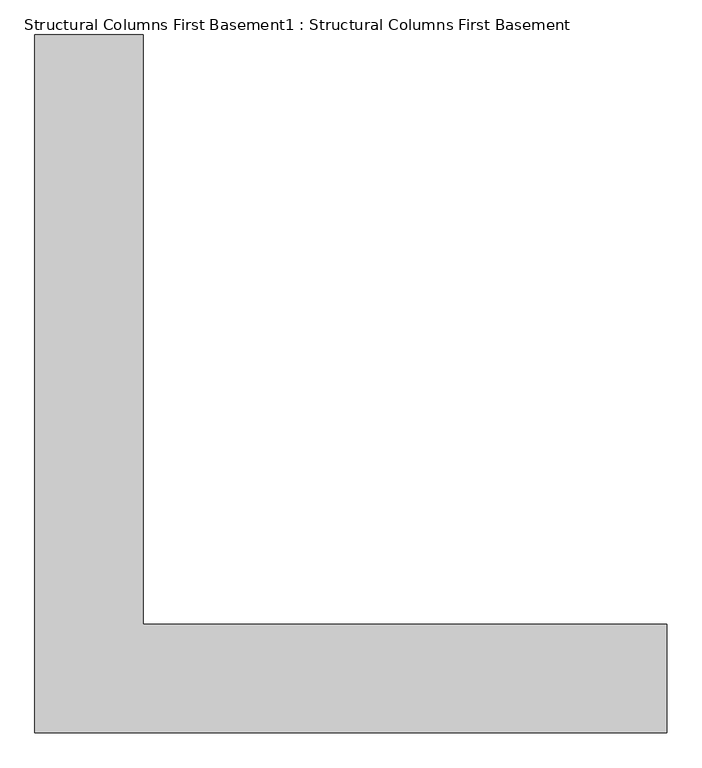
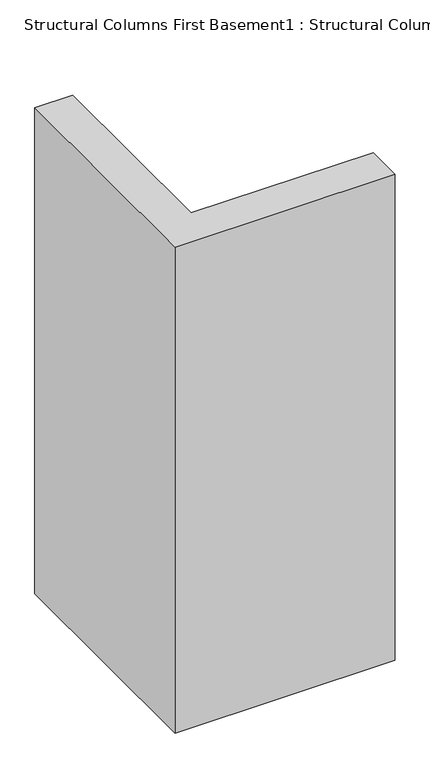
"""IFC4 building model written with IfcOpenShell, lengths in millimetres: column geometry, Structural Columns First Basement1 : Structural Columns First Basement."""

from ifc_helpers import new_model, si_unit, origin, origin_with_axes, place, context, project, spatial, polyline, outline, extrude, source, transform, mapped, element, save


def structural_columns_first_basement1_structural_columns_first_33d24459(model_context):
    return source(origin(), model_context, "Body", "SweptSolid", [
        extrude(outline(polyline([(-5157.8802351, 5533.8965304), (-4907.8802351, 5533.8965304), (-4907.8802351, 4176.127499), (-3700.6988602, 4176.127499), (-3700.6988602, 3926.127499), (-5157.8802351, 3926.127499), (-5157.8802351, 5533.8965304)])), origin_with_axes(), (0.0, 0.0, 1.0), 3400.0),
    ])


if __name__ == "__main__":
    model = new_model("IFC4")
    model_context = context("Model", 3, world=origin())
    ifc_project = project(units=[si_unit("LENGTHUNIT", "METRE", prefix="MILLI")], contexts=[model_context])
    site = spatial("IfcSite", under=ifc_project)
    building = spatial("IfcBuilding", under=site)
    placement = place(None, origin())
    structural_columns_first_basement1_structural_columns_first_shape = structural_columns_first_basement1_structural_columns_first_33d24459(model_context)
    element("IfcColumn", 1, ObjectType="Structural Columns First Basement1 : Structural Columns First Basement", at=placement, inside=building, context=model_context, shape_type="MappedRepresentation", body=[
        mapped(structural_columns_first_basement1_structural_columns_first_shape, transform((0.0, 0.0, 0.0), x_axis=(1.0, 0.0, 0.0), y_axis=(0.0, 1.0, 0.0), z_axis=(0.0, 0.0, 1.0))),
    ])
    save(model, "model.ifc")
